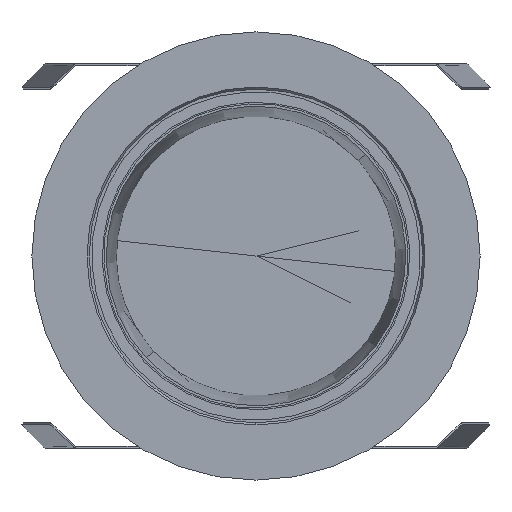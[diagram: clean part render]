
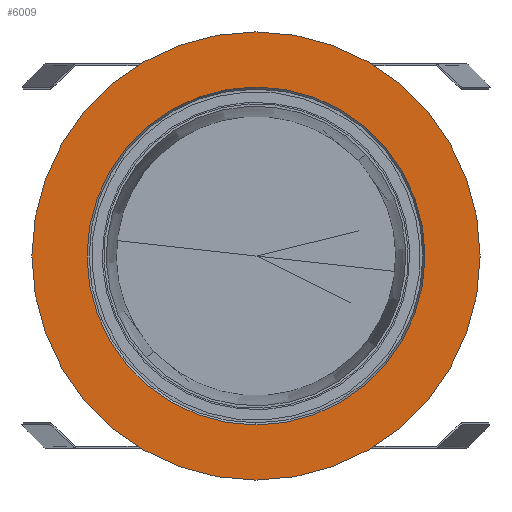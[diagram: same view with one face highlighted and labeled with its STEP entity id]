
A CAD part, front view. The second image highlights one B-rep face of the part: STEP entity #6009.
In plain terms, the highlighted planar face has unit normal (0, -1, 0).
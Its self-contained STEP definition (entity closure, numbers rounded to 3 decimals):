
#69 = CIRCLE ( 'NONE', #5864, 28.196 ) ;
#145 = EDGE_CURVE ( 'NONE', #5273, #1564, #69, .T. ) ;
#236 = AXIS2_PLACEMENT_3D ( 'NONE', #833, #4646, #5174 ) ;
#344 = FACE_BOUND ( 'NONE', #6402, .T. ) ;
#363 = CARTESIAN_POINT ( 'NONE',  ( 0., 0., -28.196 ) ) ;
#391 = CARTESIAN_POINT ( 'NONE',  ( 0., 0., 0. ) ) ;
#680 = DIRECTION ( 'NONE',  ( 0., 0., -1. ) ) ;
#734 = AXIS2_PLACEMENT_3D ( 'NONE', #1522, #6370, #4155 ) ;
#833 = CARTESIAN_POINT ( 'NONE',  ( 0., 0., 0. ) ) ;
#1522 = CARTESIAN_POINT ( 'NONE',  ( -37.4, 0., 0. ) ) ;
#1537 = DIRECTION ( 'NONE',  ( 0., 0., -1. ) ) ;
#1564 = VERTEX_POINT ( 'NONE', #2650 ) ;
#2089 = VERTEX_POINT ( 'NONE', #5682 ) ;
#2298 = EDGE_LOOP ( 'NONE', ( #2537, #6809 ) ) ;
#2537 = ORIENTED_EDGE ( 'NONE', *, *, #3108, .T. ) ;
#2588 = DIRECTION ( 'NONE',  ( 0., -1., 0. ) ) ;
#2650 = CARTESIAN_POINT ( 'NONE',  ( 0., 0., 28.196 ) ) ;
#2659 = CARTESIAN_POINT ( 'NONE',  ( 0., 0., 0. ) ) ;
#3108 = EDGE_CURVE ( 'NONE', #3713, #2089, #4836, .T. ) ;
#3200 = DIRECTION ( 'NONE',  ( 0., 0., -1. ) ) ;
#3232 = DIRECTION ( 'NONE',  ( 0., -1., 0. ) ) ;
#3589 = CIRCLE ( 'NONE', #5193, 37.4 ) ;
#3688 = PLANE ( 'NONE',  #734 ) ;
#3700 = EDGE_CURVE ( 'NONE', #1564, #5273, #6946, .T. ) ;
#3713 = VERTEX_POINT ( 'NONE', #6088 ) ;
#4155 = DIRECTION ( 'NONE',  ( 0., 0., 1. ) ) ;
#4565 = CARTESIAN_POINT ( 'NONE',  ( 0., 0., 0. ) ) ;
#4646 = DIRECTION ( 'NONE',  ( 0., -1., 0. ) ) ;
#4836 = CIRCLE ( 'NONE', #236, 37.4 ) ;
#5064 = ORIENTED_EDGE ( 'NONE', *, *, #3700, .F. ) ;
#5174 = DIRECTION ( 'NONE',  ( 0., 0., -1. ) ) ;
#5193 = AXIS2_PLACEMENT_3D ( 'NONE', #4565, #6165, #680 ) ;
#5273 = VERTEX_POINT ( 'NONE', #363 ) ;
#5339 = FACE_OUTER_BOUND ( 'NONE', #2298, .T. ) ;
#5461 = ORIENTED_EDGE ( 'NONE', *, *, #145, .F. ) ;
#5682 = CARTESIAN_POINT ( 'NONE',  ( 0., 0., 37.4 ) ) ;
#5864 = AXIS2_PLACEMENT_3D ( 'NONE', #2659, #3232, #3200 ) ;
#6009 = ADVANCED_FACE ( 'NONE', ( #344, #5339 ), #3688, .F. ) ;
#6088 = CARTESIAN_POINT ( 'NONE',  ( 0., 0., -37.4 ) ) ;
#6165 = DIRECTION ( 'NONE',  ( 0., -1., 0. ) ) ;
#6370 = DIRECTION ( 'NONE',  ( 0., 1., 0. ) ) ;
#6402 = EDGE_LOOP ( 'NONE', ( #5461, #5064 ) ) ;
#6485 = AXIS2_PLACEMENT_3D ( 'NONE', #391, #2588, #1537 ) ;
#6748 = EDGE_CURVE ( 'NONE', #2089, #3713, #3589, .T. ) ;
#6809 = ORIENTED_EDGE ( 'NONE', *, *, #6748, .T. ) ;
#6946 = CIRCLE ( 'NONE', #6485, 28.196 ) ;
